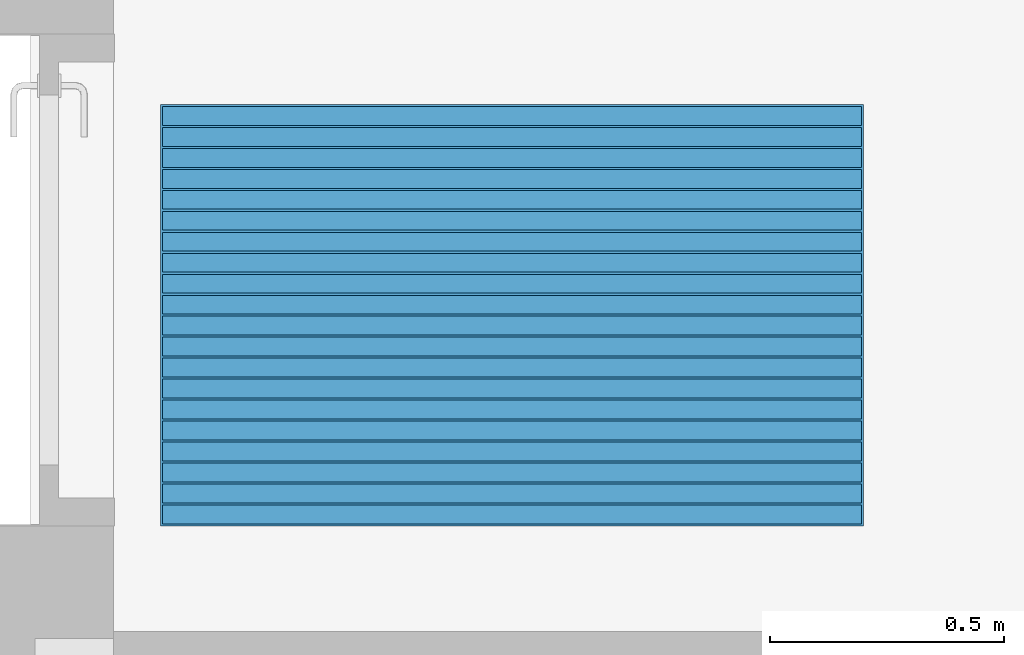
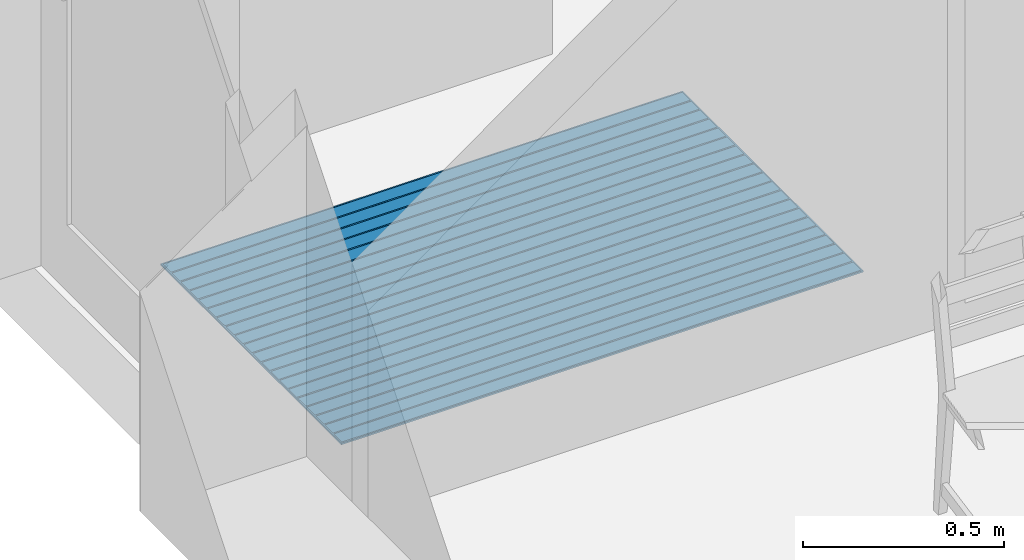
# One storey, part 55 of 91: 2 building element parts, 1 element without a shape of its own.
"""IFC2X3 building model written with IfcOpenShell, lengths in metres."""

from ifc_helpers import new_model, entity, si_unit, converted_unit, derived_unit, money_unit, direction, frame, origin_with_axes, place, context, subcontext, project, spatial, faceted_brep, material, type_object, element, aggregate, save


model = new_model("IFC2X3")

# Units and contexts
model_context = context("Model", 3, precision=1e-05, world=origin_with_axes(), true_north=direction((0.0, 1.0)))
body_context = subcontext(model_context, "Body", "Model", "MODEL_VIEW")
ifc_project = project(units=[si_unit("LENGTHUNIT", "METRE"), si_unit("AREAUNIT", "SQUARE_METRE"), si_unit("VOLUMEUNIT", "CUBIC_METRE"), converted_unit("PLANEANGLEUNIT", "DEGREE", entity("IfcPlaneAngleMeasure", 0.0174532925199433), si_unit("PLANEANGLEUNIT", "RADIAN"), dimensions=[0, 0, 0, 0, 0, 0, 0]), money_unit("EUR"), converted_unit("TIMEUNIT", "Year", entity("IfcTimeMeasure", 31557600.0), si_unit("TIMEUNIT", "SECOND"), dimensions=[0, 0, 1, 0, 0, 0, 0]), si_unit("MASSUNIT", "GRAM", prefix="KILO"), si_unit("THERMODYNAMICTEMPERATUREUNIT", "DEGREE_CELSIUS"), si_unit("LUMINOUSINTENSITYUNIT", "LUMEN"), si_unit("ENERGYUNIT", "JOULE", prefix="MEGA"), derived_unit("THERMALCONDUCTANCEUNIT", [(si_unit("POWERUNIT", "WATT"), 1), (si_unit("LENGTHUNIT", "METRE"), -1), (si_unit("THERMODYNAMICTEMPERATUREUNIT", "KELVIN"), -1)]), derived_unit("SPECIFICHEATCAPACITYUNIT", [(si_unit("ENERGYUNIT", "JOULE"), 1), (si_unit("MASSUNIT", "GRAM", prefix="KILO"), -1), (si_unit("THERMODYNAMICTEMPERATUREUNIT", "KELVIN"), -1)]), derived_unit("MASSDENSITYUNIT", [(si_unit("MASSUNIT", "GRAM", prefix="KILO"), 1), (si_unit("VOLUMEUNIT", "CUBIC_METRE"), -1)])], contexts=[model_context])

# Site, building, storey
site_placement = place(None, origin_with_axes())
site = spatial("IfcSite", under=ifc_project, at=site_placement, Name="Site", CompositionType="ELEMENT")
building_placement = place(site_placement, origin_with_axes())
building = spatial("IfcBuilding", under=site, at=building_placement, Name="Bâtiment", CompositionType="ELEMENT")
storey_placement = place(building_placement, origin_with_axes())
storey = spatial("IfcBuildingStorey", under=building, at=storey_placement, Name="RDC", CompositionType="ELEMENT", Elevation=0.0)

# Proxy, building element parts
building_element_proxy_type = type_object("IfcBuildingElementProxyType", Name="TAPIS ENCASTRÉ", PredefinedType="NOTDEFINED")
proxy_placement = place(storey_placement, frame((25.19999999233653, -16.39256214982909, 0.0), z_axis=(0.0, 0.0, 1.0), x_axis=(1.0, 0.0, 0.0)))
proxy = element("IfcBuildingElementProxy", 1, at=proxy_placement, inside=storey, type_object=building_element_proxy_type, Name="LAVABO")
ifc_material_1 = material(Name="Finition int - Stratifié")
building_element_part_1_placement = place(proxy_placement, origin_with_axes())
building_element_part_1 = element("IfcBuildingElementPart", 2, at=building_element_part_1_placement, material=ifc_material_1, Name="Finition int - Stratifié", context=body_context, shape_type="Brep", body=[
    faceted_brep([(0.003731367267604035, 0.8955223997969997, 0.0), (0.003731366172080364, 0.8552238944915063, 0.0), (0.003731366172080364, 0.8552238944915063, 0.005), (0.003731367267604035, 0.8955223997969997, 0.005), (1.496268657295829, 0.895522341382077, 0.0), (1.496268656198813, 0.8552238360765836, 0.0), (1.496268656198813, 0.8552238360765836, 0.005), (1.496268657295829, 0.895522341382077, 0.005)], [[[0, 1, 2, 3]], [[0, 4, 5, 1]], [[1, 5, 6, 2]], [[3, 2, 6, 7]], [[4, 0, 3, 7]], [[5, 4, 7, 6]]]),
    faceted_brep([(0.003731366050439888, 0.8507462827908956, 0.0), (0.003731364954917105, 0.8104477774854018, 0.0), (0.003731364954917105, 0.8104477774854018, 0.005), (0.003731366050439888, 0.8507462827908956, 0.005), (1.49626865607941, 0.8507462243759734, 0.0), (1.496268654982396, 0.8104477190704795, 0.0), (1.496268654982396, 0.8104477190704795, 0.005), (1.49626865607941, 0.8507462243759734, 0.005)], [[[0, 1, 2, 3]], [[0, 4, 5, 1]], [[1, 5, 6, 2]], [[3, 2, 6, 7]], [[4, 0, 3, 7]], [[5, 4, 7, 6]]]),
    faceted_brep([(0.003731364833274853, 0.8059701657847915, 0.0), (0.003731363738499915, 0.7656716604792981, 0.0), (0.003731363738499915, 0.7656716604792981, 0.005), (0.003731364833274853, 0.8059701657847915, 0.005), (1.496268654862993, 0.8059701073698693, 0.0), (1.496268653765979, 0.7656716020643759, 0.0), (1.496268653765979, 0.7656716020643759, 0.005), (1.496268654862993, 0.8059701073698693, 0.005)], [[[0, 1, 2, 3]], [[0, 4, 5, 1]], [[1, 5, 6, 2]], [[3, 2, 6, 7]], [[4, 0, 3, 7]], [[5, 4, 7, 6]]]),
    faceted_brep([(0.003731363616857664, 0.7611940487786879, 0.0), (0.00373136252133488, 0.7208955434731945, 0.0), (0.00373136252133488, 0.7208955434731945, 0.005), (0.003731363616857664, 0.7611940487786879, 0.005), (1.496268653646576, 0.7611939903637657, 0.0), (1.49626865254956, 0.7208954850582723, 0.0), (1.49626865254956, 0.7208954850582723, 0.005), (1.496268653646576, 0.7611939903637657, 0.005)], [[[0, 1, 2, 3]], [[0, 4, 5, 1]], [[1, 5, 6, 2]], [[3, 2, 6, 7]], [[4, 0, 3, 7]], [[5, 4, 7, 6]]]),
    faceted_brep([(0.003731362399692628, 0.7164179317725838, 0.0), (0.003731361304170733, 0.6761194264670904, 0.0), (0.003731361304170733, 0.6761194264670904, 0.005), (0.003731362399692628, 0.7164179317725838, 0.005), (1.496268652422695, 0.7164178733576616, 0.0), (1.496268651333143, 0.6761193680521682, 0.0), (1.496268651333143, 0.6761193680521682, 0.005), (1.496268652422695, 0.7164178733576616, 0.005)], [[[0, 1, 2, 3]], [[0, 4, 5, 1]], [[1, 5, 6, 2]], [[3, 2, 6, 7]], [[4, 0, 3, 7]], [[5, 4, 7, 6]]]),
    faceted_brep([(0.003731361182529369, 0.6716418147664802, 0.0), (0.003731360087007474, 0.6313433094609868, 0.0), (0.003731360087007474, 0.6313433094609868, 0.005), (0.003731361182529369, 0.6716418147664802, 0.005), (1.496268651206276, 0.671641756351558, 0.0), (1.496268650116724, 0.6313432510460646, 0.0), (1.496268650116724, 0.6313432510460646, 0.005), (1.496268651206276, 0.671641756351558, 0.005)], [[[0, 1, 2, 3]], [[0, 4, 5, 1]], [[1, 5, 6, 2]], [[3, 2, 6, 7]], [[4, 0, 3, 7]], [[5, 4, 7, 6]]]),
    faceted_brep([(0.003731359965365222, 0.6268656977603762, 0.0), (0.003731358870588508, 0.5865671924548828, 0.0), (0.003731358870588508, 0.5865671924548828, 0.005), (0.003731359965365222, 0.6268656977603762, 0.005), (1.496268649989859, 0.6268656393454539, 0.0), (1.496268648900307, 0.5865671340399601, 0.0), (1.496268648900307, 0.5865671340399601, 0.005), (1.496268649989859, 0.6268656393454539, 0.005)], [[[0, 1, 2, 3]], [[0, 4, 5, 1]], [[1, 5, 6, 2]], [[3, 2, 6, 7]], [[4, 0, 3, 7]], [[5, 4, 7, 6]]]),
    faceted_brep([(0.003731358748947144, 0.5820895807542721, 0.0), (0.003731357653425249, 0.5417910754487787, 0.0), (0.003731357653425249, 0.5417910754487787, 0.005), (0.003731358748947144, 0.5820895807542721, 0.005), (1.49626864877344, 0.5820895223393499, 0.0), (1.496268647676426, 0.5417910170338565, 0.0), (1.496268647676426, 0.5417910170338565, 0.005), (1.49626864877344, 0.5820895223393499, 0.005)], [[[0, 1, 2, 3]], [[0, 4, 5, 1]], [[1, 5, 6, 2]], [[3, 2, 6, 7]], [[4, 0, 3, 7]], [[5, 4, 7, 6]]]),
    faceted_brep([(0.003731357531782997, 0.5373134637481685, 0.0), (0.003731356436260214, 0.4970149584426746, 0.0), (0.003731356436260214, 0.4970149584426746, 0.005), (0.003731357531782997, 0.5373134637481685, 0.005), (1.496268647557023, 0.5373134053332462, 0.0), (1.496268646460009, 0.4970149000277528, 0.0), (1.496268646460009, 0.4970149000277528, 0.005), (1.496268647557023, 0.5373134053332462, 0.005)], [[[0, 1, 2, 3]], [[0, 4, 5, 1]], [[1, 5, 6, 2]], [[3, 2, 6, 7]], [[4, 0, 3, 7]], [[5, 4, 7, 6]]]),
    faceted_brep([(0.003731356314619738, 0.4925373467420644, 0.0), (0.003731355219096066, 0.452238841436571, 0.0), (0.003731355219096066, 0.452238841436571, 0.005), (0.003731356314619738, 0.4925373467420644, 0.005), (1.496268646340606, 0.4925372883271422, 0.0), (1.49626864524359, 0.4522387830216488, 0.0), (1.49626864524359, 0.4522387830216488, 0.005), (1.496268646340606, 0.4925372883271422, 0.005)], [[[0, 1, 2, 3]], [[0, 4, 5, 1]], [[1, 5, 6, 2]], [[3, 2, 6, 7]], [[4, 0, 3, 7]], [[5, 4, 7, 6]]]),
    faceted_brep([(0.003731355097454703, 0.4477612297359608, 0.0), (0.003731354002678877, 0.4074627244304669, 0.0), (0.003731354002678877, 0.4074627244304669, 0.005), (0.003731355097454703, 0.4477612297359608, 0.005), (1.496268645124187, 0.4477611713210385, 0.0), (1.496268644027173, 0.4074626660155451, 0.0), (1.496268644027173, 0.4074626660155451, 0.005), (1.496268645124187, 0.4477611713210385, 0.005)], [[[0, 1, 2, 3]], [[0, 4, 5, 1]], [[1, 5, 6, 2]], [[3, 2, 6, 7]], [[4, 0, 3, 7]], [[5, 4, 7, 6]]]),
    faceted_brep([(0.003731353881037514, 0.4029851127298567, 0.0), (0.003731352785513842, 0.3626866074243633, 0.0), (0.003731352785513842, 0.3626866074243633, 0.005), (0.003731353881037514, 0.4029851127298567, 0.005), (1.496268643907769, 0.4029850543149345, 0.0), (1.496268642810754, 0.3626865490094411, 0.0), (1.496268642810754, 0.3626865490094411, 0.005), (1.496268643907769, 0.4029850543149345, 0.005)], [[[0, 1, 2, 3]], [[0, 4, 5, 1]], [[1, 5, 6, 2]], [[3, 2, 6, 7]], [[4, 0, 3, 7]], [[5, 4, 7, 6]]]),
    faceted_brep([(0.003731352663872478, 0.3582089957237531, 0.0), (0.003731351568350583, 0.3179104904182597, 0.0), (0.003731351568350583, 0.3179104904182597, 0.005), (0.003731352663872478, 0.3582089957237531, 0.005), (1.496268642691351, 0.3582089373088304, 0.0), (1.496268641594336, 0.317910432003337, 0.0), (1.496268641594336, 0.317910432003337, 0.005), (1.496268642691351, 0.3582089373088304, 0.005)], [[[0, 1, 2, 3]], [[0, 4, 5, 1]], [[1, 5, 6, 2]], [[3, 2, 6, 7]], [[4, 0, 3, 7]], [[5, 4, 7, 6]]]),
    faceted_brep([(0.003731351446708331, 0.313432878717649, 0.0), (0.003731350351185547, 0.2731343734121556, 0.0), (0.003731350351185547, 0.2731343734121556, 0.005), (0.003731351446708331, 0.313432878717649, 0.005), (1.496268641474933, 0.3134328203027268, 0.0), (1.496268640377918, 0.2731343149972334, 0.0), (1.496268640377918, 0.2731343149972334, 0.005), (1.496268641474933, 0.3134328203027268, 0.005)], [[[0, 1, 2, 3]], [[0, 4, 5, 1]], [[1, 5, 6, 2]], [[3, 2, 6, 7]], [[4, 0, 3, 7]], [[5, 4, 7, 6]]]),
    faceted_brep([(0.003731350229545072, 0.268656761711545, 0.0), (0.003731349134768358, 0.2283582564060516, 0.0), (0.003731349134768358, 0.2283582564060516, 0.005), (0.003731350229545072, 0.268656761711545, 0.005), (1.496268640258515, 0.2686567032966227, 0.0), (1.4962686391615, 0.2283581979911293, 0.0), (1.4962686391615, 0.2283581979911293, 0.005), (1.496268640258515, 0.2686567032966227, 0.005)], [[[0, 1, 2, 3]], [[0, 4, 5, 1]], [[1, 5, 6, 2]], [[3, 2, 6, 7]], [[4, 0, 3, 7]], [[5, 4, 7, 6]]]),
    faceted_brep([(0.003731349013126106, 0.2238806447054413, 0.0), (0.003731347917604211, 0.1835821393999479, 0.0), (0.003731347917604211, 0.1835821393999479, 0.005), (0.003731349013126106, 0.2238806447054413, 0.005), (1.496268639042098, 0.2238805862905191, 0.0), (1.496268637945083, 0.1835820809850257, 0.0), (1.496268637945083, 0.1835820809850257, 0.005), (1.496268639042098, 0.2238805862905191, 0.005)], [[[0, 1, 2, 3]], [[0, 4, 5, 1]], [[1, 5, 6, 2]], [[3, 2, 6, 7]], [[4, 0, 3, 7]], [[5, 4, 7, 6]]]),
    faceted_brep([(0.003731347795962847, 0.1791045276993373, 0.0), (0.003731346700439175, 0.1388060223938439, 0.0), (0.003731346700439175, 0.1388060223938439, 0.005), (0.003731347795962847, 0.1791045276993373, 0.005), (1.49626863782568, 0.179104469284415, 0.0), (1.496268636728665, 0.1388059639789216, 0.0), (1.496268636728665, 0.1388059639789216, 0.005), (1.49626863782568, 0.179104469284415, 0.005)], [[[0, 1, 2, 3]], [[0, 4, 5, 1]], [[1, 5, 6, 2]], [[3, 2, 6, 7]], [[4, 0, 3, 7]], [[5, 4, 7, 6]]]),
    faceted_brep([(0.003731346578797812, 0.1343284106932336, 0.0), (0.003731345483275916, 0.09402990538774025, 0.0), (0.003731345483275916, 0.09402990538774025, 0.005), (0.003731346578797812, 0.1343284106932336, 0.005), (1.496268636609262, 0.1343283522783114, 0.0), (1.496268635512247, 0.09402984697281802, 0.0), (1.496268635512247, 0.09402984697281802, 0.005), (1.496268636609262, 0.1343283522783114, 0.005)], [[[0, 1, 2, 3]], [[0, 4, 5, 1]], [[1, 5, 6, 2]], [[3, 2, 6, 7]], [[4, 0, 3, 7]], [[5, 4, 7, 6]]]),
    faceted_brep([(0.003731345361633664, 0.08955229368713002, 0.0), (0.003731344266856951, 0.04925378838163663, 0.0), (0.003731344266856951, 0.04925378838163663, 0.005), (0.003731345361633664, 0.08955229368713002, 0.005), (1.496268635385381, 0.08955223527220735, 0.0), (1.496268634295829, 0.04925372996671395, 0.0), (1.496268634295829, 0.04925372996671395, 0.005), (1.496268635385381, 0.08955223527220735, 0.005)], [[[0, 1, 2, 3]], [[0, 4, 5, 1]], [[1, 5, 6, 2]], [[3, 2, 6, 7]], [[4, 0, 3, 7]], [[5, 4, 7, 6]]]),
    faceted_brep([(0.003731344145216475, 0.04477617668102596, 0.0), (0.003731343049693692, 0.004477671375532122, 0.0), (0.003731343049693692, 0.004477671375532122, 0.005), (0.003731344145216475, 0.04477617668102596, 0.005), (1.496268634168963, 0.04477611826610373, 0.0), (1.496268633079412, 0.004477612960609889, 0.0), (1.496268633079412, 0.004477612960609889, 0.005), (1.496268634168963, 0.04477611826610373, 0.005)], [[[0, 1, 2, 3]], [[0, 4, 5, 1]], [[1, 5, 6, 2]], [[3, 2, 6, 7]], [[4, 0, 3, 7]], [[5, 4, 7, 6]]]),
])
ifc_material_2 = material(Name="Métal - Aluminium")
building_element_part_2_placement = place(proxy_placement, origin_with_axes())
building_element_part_2 = element("IfcBuildingElementPart", 3, at=building_element_part_2_placement, material=ifc_material_2, Name="Métal - Aluminium", context=body_context, shape_type="Brep", body=[
    faceted_brep([(0.003731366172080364, 0.8552238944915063, 0.0), (0.003731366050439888, 0.8507462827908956, 0.0), (0.003731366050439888, 0.8507462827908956, 0.005), (0.003731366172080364, 0.8552238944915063, 0.005), (1.496268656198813, 0.8552238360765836, 0.0), (1.49626865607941, 0.8507462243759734, 0.0), (1.49626865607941, 0.8507462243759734, 0.005), (1.496268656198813, 0.8552238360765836, 0.005)], [[[0, 1, 2, 3]], [[0, 4, 5, 1]], [[1, 5, 6, 2]], [[3, 2, 6, 7]], [[4, 0, 3, 7]], [[5, 4, 7, 6]]]),
    faceted_brep([(0.003731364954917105, 0.8104477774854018, 0.0), (0.003731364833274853, 0.8059701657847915, 0.0), (0.003731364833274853, 0.8059701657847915, 0.005), (0.003731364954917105, 0.8104477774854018, 0.005), (1.496268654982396, 0.8104477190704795, 0.0), (1.496268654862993, 0.8059701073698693, 0.0), (1.496268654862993, 0.8059701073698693, 0.005), (1.496268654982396, 0.8104477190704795, 0.005)], [[[0, 1, 2, 3]], [[0, 4, 5, 1]], [[1, 5, 6, 2]], [[3, 2, 6, 7]], [[4, 0, 3, 7]], [[5, 4, 7, 6]]]),
    faceted_brep([(0.003731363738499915, 0.7656716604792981, 0.0), (0.003731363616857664, 0.7611940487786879, 0.0), (0.003731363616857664, 0.7611940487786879, 0.005), (0.003731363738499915, 0.7656716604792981, 0.005), (1.496268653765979, 0.7656716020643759, 0.0), (1.496268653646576, 0.7611939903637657, 0.0), (1.496268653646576, 0.7611939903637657, 0.005), (1.496268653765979, 0.7656716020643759, 0.005)], [[[0, 1, 2, 3]], [[0, 4, 5, 1]], [[1, 5, 6, 2]], [[3, 2, 6, 7]], [[4, 0, 3, 7]], [[5, 4, 7, 6]]]),
    faceted_brep([(0.00373136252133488, 0.7208955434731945, 0.0), (0.003731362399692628, 0.7164179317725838, 0.0), (0.003731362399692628, 0.7164179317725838, 0.005), (0.00373136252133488, 0.7208955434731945, 0.005), (1.49626865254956, 0.7208954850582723, 0.0), (1.496268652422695, 0.7164178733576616, 0.0), (1.496268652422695, 0.7164178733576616, 0.005), (1.49626865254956, 0.7208954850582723, 0.005)], [[[0, 1, 2, 3]], [[0, 4, 5, 1]], [[1, 5, 6, 2]], [[3, 2, 6, 7]], [[4, 0, 3, 7]], [[5, 4, 7, 6]]]),
    faceted_brep([(0.003731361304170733, 0.6761194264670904, 0.0), (0.003731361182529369, 0.6716418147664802, 0.0), (0.003731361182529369, 0.6716418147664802, 0.005), (0.003731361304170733, 0.6761194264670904, 0.005), (1.496268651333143, 0.6761193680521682, 0.0), (1.496268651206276, 0.671641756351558, 0.0), (1.496268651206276, 0.671641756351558, 0.005), (1.496268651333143, 0.6761193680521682, 0.005)], [[[0, 1, 2, 3]], [[0, 4, 5, 1]], [[1, 5, 6, 2]], [[3, 2, 6, 7]], [[4, 0, 3, 7]], [[5, 4, 7, 6]]]),
    faceted_brep([(0.003731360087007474, 0.6313433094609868, 0.0), (0.003731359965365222, 0.6268656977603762, 0.0), (0.003731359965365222, 0.6268656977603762, 0.005), (0.003731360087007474, 0.6313433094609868, 0.005), (1.496268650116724, 0.6313432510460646, 0.0), (1.496268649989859, 0.6268656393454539, 0.0), (1.496268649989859, 0.6268656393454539, 0.005), (1.496268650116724, 0.6313432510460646, 0.005)], [[[0, 1, 2, 3]], [[0, 4, 5, 1]], [[1, 5, 6, 2]], [[3, 2, 6, 7]], [[4, 0, 3, 7]], [[5, 4, 7, 6]]]),
    faceted_brep([(0.003731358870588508, 0.5865671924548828, 0.0), (0.003731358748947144, 0.5820895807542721, 0.0), (0.003731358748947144, 0.5820895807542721, 0.005), (0.003731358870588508, 0.5865671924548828, 0.005), (1.496268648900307, 0.5865671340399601, 0.0), (1.49626864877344, 0.5820895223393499, 0.0), (1.49626864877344, 0.5820895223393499, 0.005), (1.496268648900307, 0.5865671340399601, 0.005)], [[[0, 1, 2, 3]], [[0, 4, 5, 1]], [[1, 5, 6, 2]], [[3, 2, 6, 7]], [[4, 0, 3, 7]], [[5, 4, 7, 6]]]),
    faceted_brep([(0.003731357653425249, 0.5417910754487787, 0.0), (0.003731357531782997, 0.5373134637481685, 0.0), (0.003731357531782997, 0.5373134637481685, 0.005), (0.003731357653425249, 0.5417910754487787, 0.005), (1.496268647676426, 0.5417910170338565, 0.0), (1.496268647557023, 0.5373134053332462, 0.0), (1.496268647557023, 0.5373134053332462, 0.005), (1.496268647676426, 0.5417910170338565, 0.005)], [[[0, 1, 2, 3]], [[0, 4, 5, 1]], [[1, 5, 6, 2]], [[3, 2, 6, 7]], [[4, 0, 3, 7]], [[5, 4, 7, 6]]]),
    faceted_brep([(0.003731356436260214, 0.4970149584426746, 0.0), (0.003731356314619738, 0.4925373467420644, 0.0), (0.003731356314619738, 0.4925373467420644, 0.005), (0.003731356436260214, 0.4970149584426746, 0.005), (1.496268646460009, 0.4970149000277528, 0.0), (1.496268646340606, 0.4925372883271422, 0.0), (1.496268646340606, 0.4925372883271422, 0.005), (1.496268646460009, 0.4970149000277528, 0.005)], [[[0, 1, 2, 3]], [[0, 4, 5, 1]], [[1, 5, 6, 2]], [[3, 2, 6, 7]], [[4, 0, 3, 7]], [[5, 4, 7, 6]]]),
    faceted_brep([(0.003731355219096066, 0.452238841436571, 0.0), (0.003731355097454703, 0.4477612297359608, 0.0), (0.003731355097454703, 0.4477612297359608, 0.005), (0.003731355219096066, 0.452238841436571, 0.005), (1.49626864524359, 0.4522387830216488, 0.0), (1.496268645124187, 0.4477611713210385, 0.0), (1.496268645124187, 0.4477611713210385, 0.005), (1.49626864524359, 0.4522387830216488, 0.005)], [[[0, 1, 2, 3]], [[0, 4, 5, 1]], [[1, 5, 6, 2]], [[3, 2, 6, 7]], [[4, 0, 3, 7]], [[5, 4, 7, 6]]]),
    faceted_brep([(0.003731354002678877, 0.4074627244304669, 0.0), (0.003731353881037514, 0.4029851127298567, 0.0), (0.003731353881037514, 0.4029851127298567, 0.005), (0.003731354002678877, 0.4074627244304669, 0.005), (1.496268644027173, 0.4074626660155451, 0.0), (1.496268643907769, 0.4029850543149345, 0.0), (1.496268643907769, 0.4029850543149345, 0.005), (1.496268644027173, 0.4074626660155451, 0.005)], [[[0, 1, 2, 3]], [[0, 4, 5, 1]], [[1, 5, 6, 2]], [[3, 2, 6, 7]], [[4, 0, 3, 7]], [[5, 4, 7, 6]]]),
    faceted_brep([(0.003731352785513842, 0.3626866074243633, 0.0), (0.003731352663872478, 0.3582089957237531, 0.0), (0.003731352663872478, 0.3582089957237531, 0.005), (0.003731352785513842, 0.3626866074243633, 0.005), (1.496268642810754, 0.3626865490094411, 0.0), (1.496268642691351, 0.3582089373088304, 0.0), (1.496268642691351, 0.3582089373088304, 0.005), (1.496268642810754, 0.3626865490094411, 0.005)], [[[0, 1, 2, 3]], [[0, 4, 5, 1]], [[1, 5, 6, 2]], [[3, 2, 6, 7]], [[4, 0, 3, 7]], [[5, 4, 7, 6]]]),
    faceted_brep([(0.003731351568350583, 0.3179104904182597, 0.0), (0.003731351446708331, 0.313432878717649, 0.0), (0.003731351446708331, 0.313432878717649, 0.005), (0.003731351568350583, 0.3179104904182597, 0.005), (1.496268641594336, 0.317910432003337, 0.0), (1.496268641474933, 0.3134328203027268, 0.0), (1.496268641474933, 0.3134328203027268, 0.005), (1.496268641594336, 0.317910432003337, 0.005)], [[[0, 1, 2, 3]], [[0, 4, 5, 1]], [[1, 5, 6, 2]], [[3, 2, 6, 7]], [[4, 0, 3, 7]], [[5, 4, 7, 6]]]),
    faceted_brep([(0.003731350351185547, 0.2731343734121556, 0.0), (0.003731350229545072, 0.268656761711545, 0.0), (0.003731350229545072, 0.268656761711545, 0.005), (0.003731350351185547, 0.2731343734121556, 0.005), (1.496268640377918, 0.2731343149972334, 0.0), (1.496268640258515, 0.2686567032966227, 0.0), (1.496268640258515, 0.2686567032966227, 0.005), (1.496268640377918, 0.2731343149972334, 0.005)], [[[0, 1, 2, 3]], [[0, 4, 5, 1]], [[1, 5, 6, 2]], [[3, 2, 6, 7]], [[4, 0, 3, 7]], [[5, 4, 7, 6]]]),
    faceted_brep([(0.003731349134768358, 0.2283582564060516, 0.0), (0.003731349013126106, 0.2238806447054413, 0.0), (0.003731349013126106, 0.2238806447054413, 0.005), (0.003731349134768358, 0.2283582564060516, 0.005), (1.4962686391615, 0.2283581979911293, 0.0), (1.496268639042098, 0.2238805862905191, 0.0), (1.496268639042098, 0.2238805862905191, 0.005), (1.4962686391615, 0.2283581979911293, 0.005)], [[[0, 1, 2, 3]], [[0, 4, 5, 1]], [[1, 5, 6, 2]], [[3, 2, 6, 7]], [[4, 0, 3, 7]], [[5, 4, 7, 6]]]),
    faceted_brep([(0.003731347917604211, 0.1835821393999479, 0.0), (0.003731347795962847, 0.1791045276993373, 0.0), (0.003731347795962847, 0.1791045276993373, 0.005), (0.003731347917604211, 0.1835821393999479, 0.005), (1.496268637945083, 0.1835820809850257, 0.0), (1.49626863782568, 0.179104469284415, 0.0), (1.49626863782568, 0.179104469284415, 0.005), (1.496268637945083, 0.1835820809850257, 0.005)], [[[0, 1, 2, 3]], [[0, 4, 5, 1]], [[1, 5, 6, 2]], [[3, 2, 6, 7]], [[4, 0, 3, 7]], [[5, 4, 7, 6]]]),
    faceted_brep([(0.003731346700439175, 0.1388060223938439, 0.0), (0.003731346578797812, 0.1343284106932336, 0.0), (0.003731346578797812, 0.1343284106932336, 0.005), (0.003731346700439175, 0.1388060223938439, 0.005), (1.496268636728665, 0.1388059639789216, 0.0), (1.496268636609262, 0.1343283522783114, 0.0), (1.496268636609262, 0.1343283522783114, 0.005), (1.496268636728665, 0.1388059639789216, 0.005)], [[[0, 1, 2, 3]], [[0, 4, 5, 1]], [[1, 5, 6, 2]], [[3, 2, 6, 7]], [[4, 0, 3, 7]], [[5, 4, 7, 6]]]),
    faceted_brep([(0.003731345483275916, 0.09402990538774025, 0.0), (0.003731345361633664, 0.08955229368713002, 0.0), (0.003731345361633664, 0.08955229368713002, 0.005), (0.003731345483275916, 0.09402990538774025, 0.005), (1.496268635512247, 0.09402984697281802, 0.0), (1.496268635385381, 0.08955223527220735, 0.0), (1.496268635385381, 0.08955223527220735, 0.005), (1.496268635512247, 0.09402984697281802, 0.005)], [[[0, 1, 2, 3]], [[0, 4, 5, 1]], [[1, 5, 6, 2]], [[3, 2, 6, 7]], [[4, 0, 3, 7]], [[5, 4, 7, 6]]]),
    faceted_brep([(0.003731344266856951, 0.04925378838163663, 0.0), (0.003731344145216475, 0.04477617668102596, 0.0), (0.003731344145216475, 0.04477617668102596, 0.005), (0.003731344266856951, 0.04925378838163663, 0.005), (1.496268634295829, 0.04925372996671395, 0.0), (1.496268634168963, 0.04477611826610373, 0.0), (1.496268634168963, 0.04477611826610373, 0.005), (1.496268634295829, 0.04925372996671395, 0.005)], [[[0, 1, 2, 3]], [[0, 4, 5, 1]], [[1, 5, 6, 2]], [[3, 2, 6, 7]], [[4, 0, 3, 7]], [[5, 4, 7, 6]]]),
    faceted_brep([(3.376567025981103e-08, 0.8999999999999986, 0.0), (0.0, 5.35414894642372e-08, 0.0), (0.0, 5.35414894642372e-08, 0.005), (3.376567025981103e-08, 0.8999999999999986, 0.005), (0.003731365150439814, 0.9000000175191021, 0.0), (1.496268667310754, 0.8999999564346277, 0.0), (1.499999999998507, 0.8999999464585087, 0.0), (1.499999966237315, 0.0, 0.0), (1.49626863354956, 9.976118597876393e-09, 0.0), (0.003731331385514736, 7.106059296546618e-08, 0.0), (1.496268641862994, 0.004477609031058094, 0.0), (1.496268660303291, 0.8955223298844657, 0.0), (0.003731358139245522, 0.8955223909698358, 0.0), (0.003731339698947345, 0.004477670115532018, 0.0), (0.003731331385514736, 7.106059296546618e-08, 0.005), (1.49626863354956, 9.976118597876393e-09, 0.005), (1.499999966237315, 0.0, 0.005), (1.499999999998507, 0.8999999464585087, 0.005), (1.496268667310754, 0.8999999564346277, 0.005), (0.003731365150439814, 0.9000000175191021, 0.005), (1.496268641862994, 0.004477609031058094, 0.005), (0.003731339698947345, 0.004477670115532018, 0.005), (0.003731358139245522, 0.8955223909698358, 0.005), (1.496268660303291, 0.8955223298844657, 0.005)], [[[0, 1, 2, 3]], [[0, 4, 5, 6, 7, 8, 9, 1], [10, 11, 12, 13]], [[1, 9, 14, 2]], [[3, 2, 14, 15, 16, 17, 18, 19], [20, 21, 22, 23]], [[4, 0, 3, 19]], [[5, 4, 19, 18]], [[6, 5, 18, 17]], [[7, 6, 17, 16]], [[8, 7, 16, 15]], [[9, 8, 15, 14]], [[11, 10, 20, 23]], [[12, 11, 23, 22]], [[13, 12, 22, 21]], [[10, 13, 21, 20]]]),
])
aggregate(proxy, [building_element_part_1, building_element_part_2])

save(model, "model.ifc")
